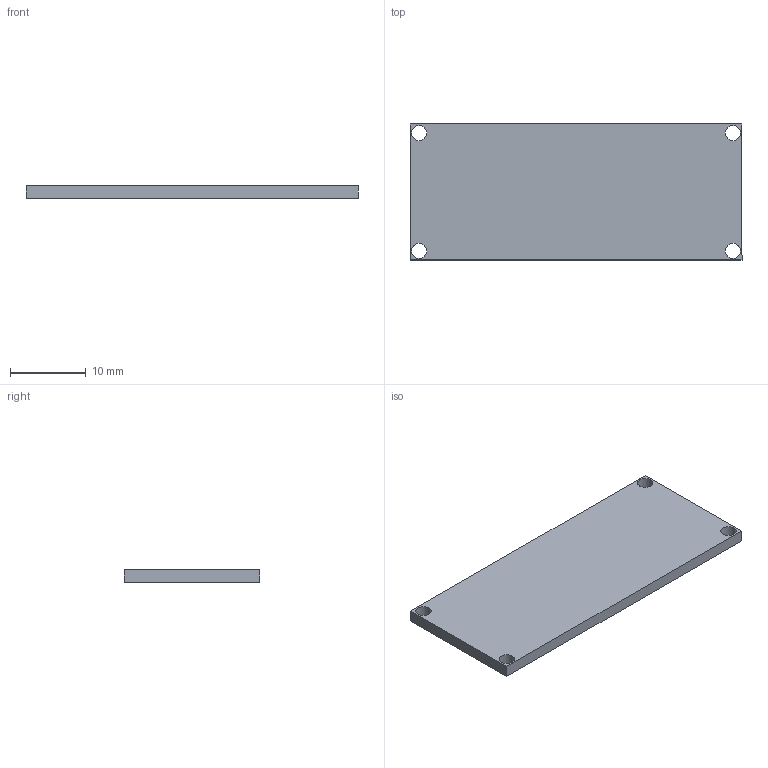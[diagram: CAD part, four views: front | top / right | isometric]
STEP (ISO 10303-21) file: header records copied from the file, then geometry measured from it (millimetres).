
FILE_DESCRIPTION(/* description */ ('STEP AP242 Edition 2','CAx-IF Rec.Pracs.---Representation and Presentation of Product Manufacturing Information (PMI)---4.0---2014-10-13','CAx-IF Rec.Pracs.---3D Tessellated Geometry---0.4---2014-09-14','2;1','CAx-IF Rec.Pracs.---User Defined Attributes---1.5---2016-08-15'),/* implementation_level */ '2;1');
FILE_NAME(/* name */ 'Drone Layout - Surface 0',/* time_stamp */ '2026-10-04T22:22:50Z',/* author */ (''),/* organization */ (''),/* preprocessor_version */ 'ST-DEVELOPER v20',/* originating_system */ 'ONSHAPE BY PTC INC, 1.221',/* authorisation */ ' ');
FILE_SCHEMA (('AP242_MANAGED_MODEL_BASED_3D_ENGINEERING_MIM_LF { 1 0 10303 442 3 1 4 }'));
Length unit declared in the file: metre
Products named in the file (1): PCB:1__PCB
Bounding box: 43.7 x 17.9 x 1.6 mm (x, y, z)
Volume: 1231.5 mm3; surface area: 1776.7 mm2
Topology: 1 solids, 1 shells, 10 faces, 24 edges, 16 vertices
Faces by surface type: plane 6, cylinder 4
Full cylindrical faces by diameter (mm): 2 x4
Entity records: 305 total; most frequent: DIRECTION 50, CARTESIAN_POINT 47, ORIENTED_EDGE 40, EDGE_LOOP 22, FACE_BOUND 22, EDGE_CURVE 20, AXIS2_PLACEMENT_3D 19, VERTEX_POINT 16
